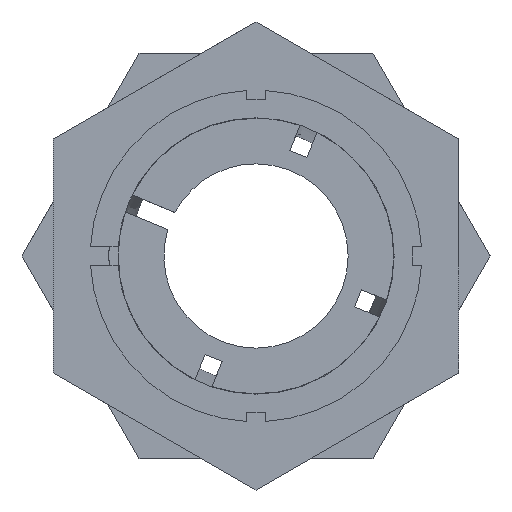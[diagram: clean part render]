
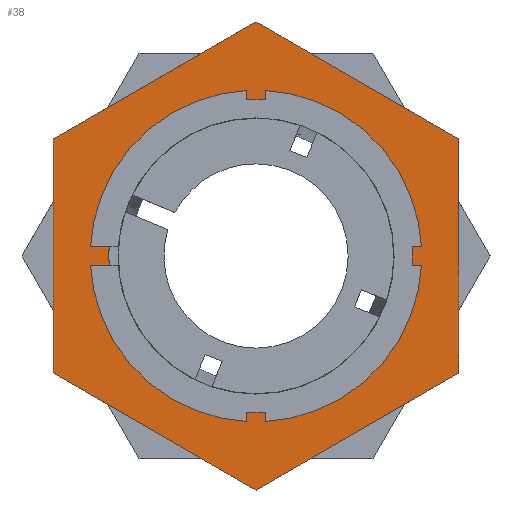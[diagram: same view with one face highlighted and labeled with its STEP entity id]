
A CAD part, left-side view. The second image highlights one B-rep face of the part: STEP entity #38.
In plain terms, the highlighted planar face has unit normal (-1, 0, 0).
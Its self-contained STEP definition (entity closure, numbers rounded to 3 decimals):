
#38 = ADVANCED_FACE ( 'NONE', ( #1924, #1929 ), #1432, .F. ) ;
#117 = DIRECTION ( 'NONE',  ( 0., 0., 1. ) ) ;
#132 = DIRECTION ( 'NONE',  ( -1., 0., 0. ) ) ;
#133 = DIRECTION ( 'NONE',  ( 0., 0., 1. ) ) ;
#135 = CARTESIAN_POINT ( 'NONE',  ( 12.52, 0., 0. ) ) ;
#136 = CARTESIAN_POINT ( 'NONE',  ( 12.52, 0., -12.702 ) ) ;
#137 = DIRECTION ( 'NONE',  ( 0., -0.866, -0.5 ) ) ;
#185 = CARTESIAN_POINT ( 'NONE',  ( 12.52, 0., 0. ) ) ;
#205 = DIRECTION ( 'NONE',  ( 0., 0., 1. ) ) ;
#232 = DIRECTION ( 'NONE',  ( 0., 0.866, 0.5 ) ) ;
#233 = CARTESIAN_POINT ( 'NONE',  ( 12.52, 0., 12.702 ) ) ;
#234 = DIRECTION ( 'NONE',  ( 0., 0.866, -0.5 ) ) ;
#235 = CARTESIAN_POINT ( 'NONE',  ( 12.52, 11., 6.351 ) ) ;
#236 = DIRECTION ( 'NONE',  ( 0., -0.866, 0.5 ) ) ;
#237 = CARTESIAN_POINT ( 'NONE',  ( 12.52, -11., -6.351 ) ) ;
#253 = DIRECTION ( 'NONE',  ( 0., 0., -1. ) ) ;
#255 = CARTESIAN_POINT ( 'NONE',  ( 12.52, 11., -6.351 ) ) ;
#400 = CARTESIAN_POINT ( 'NONE',  ( 12.52, -11., 6.351 ) ) ;
#404 = DIRECTION ( 'NONE',  ( -1., 0., 0. ) ) ;
#624 = CARTESIAN_POINT ( 'NONE',  ( 12.52, -11., -6.351 ) ) ;
#632 = CARTESIAN_POINT ( 'NONE',  ( 12.52, -11., 6.351 ) ) ;
#634 = CARTESIAN_POINT ( 'NONE',  ( 12.52, 0., -8.001 ) ) ;
#638 = CARTESIAN_POINT ( 'NONE',  ( 12.52, 0., 8.001 ) ) ;
#646 = CARTESIAN_POINT ( 'NONE',  ( 12.52, 11., 6.351 ) ) ;
#648 = CARTESIAN_POINT ( 'NONE',  ( 12.52, 0., -12.702 ) ) ;
#650 = CARTESIAN_POINT ( 'NONE',  ( 12.52, 11., -6.351 ) ) ;
#718 = CARTESIAN_POINT ( 'NONE',  ( 12.52, 0., 12.702 ) ) ;
#827 = EDGE_CURVE ( 'NONE', #1196, #1195, #1964, .T. ) ;
#835 = EDGE_CURVE ( 'NONE', #1204, #1199, #1984, .T. ) ;
#837 = EDGE_CURVE ( 'NONE', #1216, #1214, #1985, .T. ) ;
#865 = EDGE_CURVE ( 'NONE', #1199, #1204, #2034, .T. ) ;
#879 = EDGE_CURVE ( 'NONE', #1214, #1196, #2058, .T. ) ;
#880 = EDGE_CURVE ( 'NONE', #1284, #1212, #2060, .T. ) ;
#881 = EDGE_CURVE ( 'NONE', #1195, #1284, #2062, .T. ) ;
#894 = EDGE_CURVE ( 'NONE', #1212, #1216, #2083, .T. ) ;
#1058 = AXIS2_PLACEMENT_3D ( 'NONE', #1431, #1434, #1435 ) ;
#1195 = VERTEX_POINT ( 'NONE', #632 ) ;
#1196 = VERTEX_POINT ( 'NONE', #624 ) ;
#1199 = VERTEX_POINT ( 'NONE', #634 ) ;
#1204 = VERTEX_POINT ( 'NONE', #638 ) ;
#1212 = VERTEX_POINT ( 'NONE', #646 ) ;
#1214 = VERTEX_POINT ( 'NONE', #648 ) ;
#1216 = VERTEX_POINT ( 'NONE', #650 ) ;
#1284 = VERTEX_POINT ( 'NONE', #718 ) ;
#1431 = CARTESIAN_POINT ( 'NONE',  ( 12.52, 50., 0. ) ) ;
#1432 = PLANE ( 'NONE',  #1058 ) ;
#1434 = DIRECTION ( 'NONE',  ( 1., 0., 0. ) ) ;
#1435 = DIRECTION ( 'NONE',  ( 0., 0., -1. ) ) ;
#1759 = ORIENTED_EDGE ( 'NONE', *, *, #881, .T. ) ;
#1761 = ORIENTED_EDGE ( 'NONE', *, *, #865, .F. ) ;
#1762 = ORIENTED_EDGE ( 'NONE', *, *, #827, .T. ) ;
#1763 = ORIENTED_EDGE ( 'NONE', *, *, #894, .T. ) ;
#1766 = ORIENTED_EDGE ( 'NONE', *, *, #837, .T. ) ;
#1770 = ORIENTED_EDGE ( 'NONE', *, *, #879, .T. ) ;
#1772 = ORIENTED_EDGE ( 'NONE', *, *, #835, .F. ) ;
#1775 = ORIENTED_EDGE ( 'NONE', *, *, #880, .T. ) ;
#1806 = EDGE_LOOP ( 'NONE', ( #1772, #1761 ) ) ;
#1818 = EDGE_LOOP ( 'NONE', ( #1775, #1763, #1766, #1770, #1762, #1759 ) ) ;
#1924 = FACE_BOUND ( 'NONE', #1806, .T. ) ;
#1929 = FACE_OUTER_BOUND ( 'NONE', #1818, .T. ) ;
#1964 = LINE ( 'NONE', #400, #1968 ) ;
#1968 = VECTOR ( 'NONE', #117, 1000. ) ;
#1984 = CIRCLE ( 'NONE', #2367, 8.001 ) ;
#1985 = LINE ( 'NONE', #136, #1986 ) ;
#1986 = VECTOR ( 'NONE', #137, 1000. ) ;
#2034 = CIRCLE ( 'NONE', #2380, 8.001 ) ;
#2058 = LINE ( 'NONE', #237, #2059 ) ;
#2059 = VECTOR ( 'NONE', #236, 1000. ) ;
#2060 = LINE ( 'NONE', #235, #2061 ) ;
#2061 = VECTOR ( 'NONE', #234, 1000. ) ;
#2062 = LINE ( 'NONE', #233, #2063 ) ;
#2063 = VECTOR ( 'NONE', #232, 1000. ) ;
#2083 = LINE ( 'NONE', #255, #2084 ) ;
#2084 = VECTOR ( 'NONE', #253, 1000. ) ;
#2367 = AXIS2_PLACEMENT_3D ( 'NONE', #135, #132, #133 ) ;
#2380 = AXIS2_PLACEMENT_3D ( 'NONE', #185, #404, #205 ) ;
